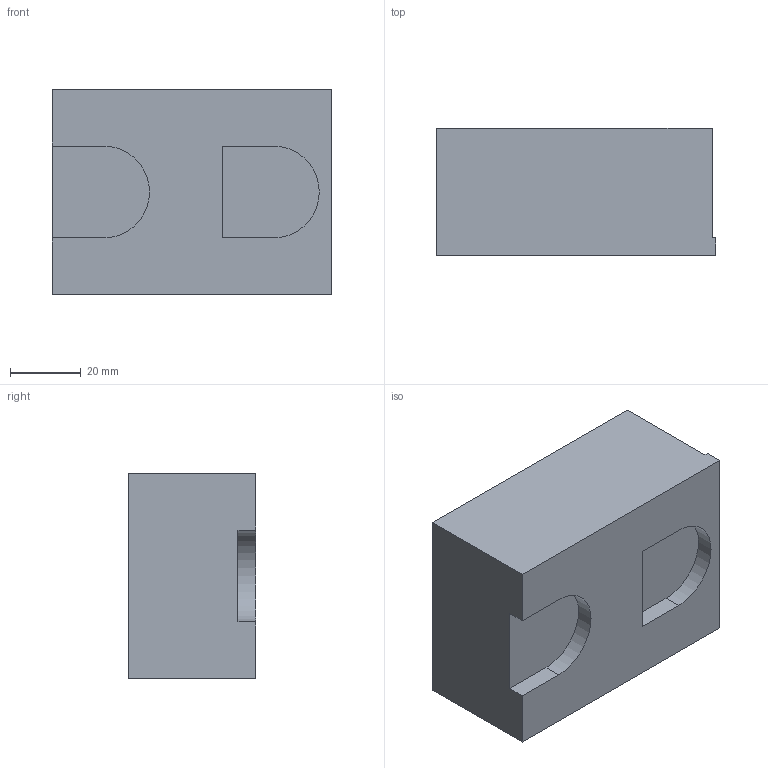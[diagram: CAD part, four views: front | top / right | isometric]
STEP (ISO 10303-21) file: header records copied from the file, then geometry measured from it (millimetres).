
FILE_DESCRIPTION (( 'STEP AP214' ), '1' );
FILE_NAME ('44778-36.STEP', '2020-03-27T13:53:05', ( '' ), ( '' ), 'SwSTEP 2.0', 'SolidWorks 2019', '' );
FILE_SCHEMA (( 'AUTOMOTIVE_DESIGN' ));
Length unit declared in the file: millimetre
Products named in the file (1): 44778-36
Bounding box: 79 x 36 x 58 mm (x, y, z)
Volume: 156729.4 mm3; surface area: 19664.4 mm2
Topology: 1 solids, 1 shells, 17 faces, 42 edges, 28 vertices
Faces by surface type: plane 15, cylinder 2
Entity records: 534 total; most frequent: CARTESIAN_POINT 88, ORIENTED_EDGE 84, DIRECTION 82, EDGE_CURVE 42, VECTOR 38, LINE 38, VERTEX_POINT 28, AXIS2_PLACEMENT_3D 22
